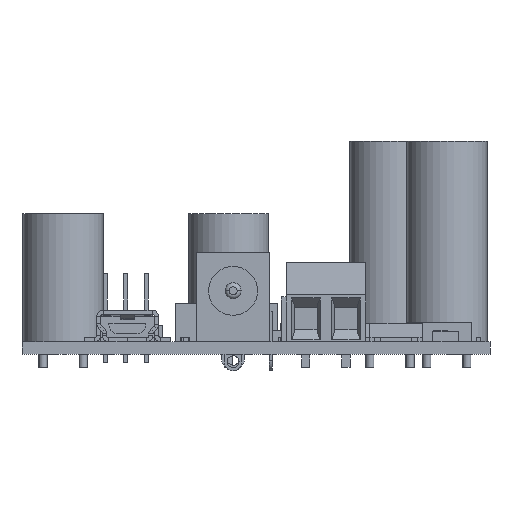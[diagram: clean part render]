
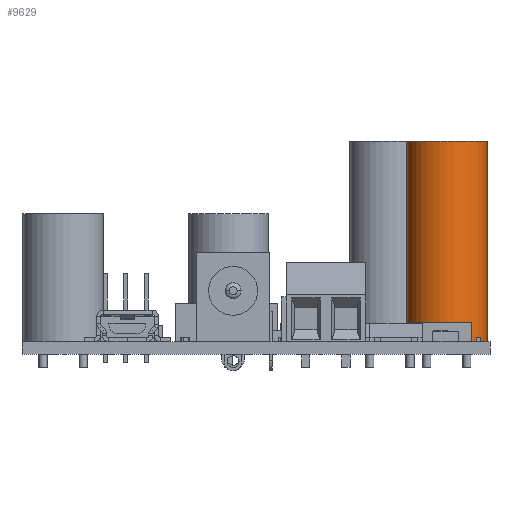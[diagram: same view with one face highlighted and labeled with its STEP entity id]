
A CAD part, front view. The second image highlights one B-rep face of the part: STEP entity #9629.
In plain terms, the highlighted cylindrical face has radius 5 mm (diameter 10 mm), a full revolution.
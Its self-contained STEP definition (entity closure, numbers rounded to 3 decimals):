
#9629 = ADVANCED_FACE('',(#9630),#9657,.T.);
#9630 = FACE_BOUND('',#9631,.T.);
#9631 = EDGE_LOOP('',(#9632,#9641,#9649,#9656));
#9632 = ORIENTED_EDGE('',*,*,#9633,.T.);
#9633 = EDGE_CURVE('',#9634,#9634,#9636,.T.);
#9634 = VERTEX_POINT('',#9635);
#9635 = CARTESIAN_POINT('',(5.,0.,0.));
#9636 = CIRCLE('',#9637,5.);
#9637 = AXIS2_PLACEMENT_3D('',#9638,#9639,#9640);
#9638 = CARTESIAN_POINT('',(0.,0.,0.));
#9639 = DIRECTION('',(0.,0.,1.));
#9640 = DIRECTION('',(1.,0.,0.));
#9641 = ORIENTED_EDGE('',*,*,#9642,.T.);
#9642 = EDGE_CURVE('',#9634,#9643,#9645,.T.);
#9643 = VERTEX_POINT('',#9644);
#9644 = CARTESIAN_POINT('',(5.,0.,25.));
#9645 = LINE('',#9646,#9647);
#9646 = CARTESIAN_POINT('',(5.,0.,0.));
#9647 = VECTOR('',#9648,1.);
#9648 = DIRECTION('',(0.,0.,1.));
#9649 = ORIENTED_EDGE('',*,*,#9650,.F.);
#9650 = EDGE_CURVE('',#9643,#9643,#9651,.T.);
#9651 = CIRCLE('',#9652,5.);
#9652 = AXIS2_PLACEMENT_3D('',#9653,#9654,#9655);
#9653 = CARTESIAN_POINT('',(0.,0.,25.));
#9654 = DIRECTION('',(0.,0.,1.));
#9655 = DIRECTION('',(1.,0.,0.));
#9656 = ORIENTED_EDGE('',*,*,#9642,.F.);
#9657 = CYLINDRICAL_SURFACE('',#9658,5.);
#9658 = AXIS2_PLACEMENT_3D('',#9659,#9660,#9661);
#9659 = CARTESIAN_POINT('',(0.,0.,0.));
#9660 = DIRECTION('',(0.,0.,-1.));
#9661 = DIRECTION('',(1.,0.,0.));
